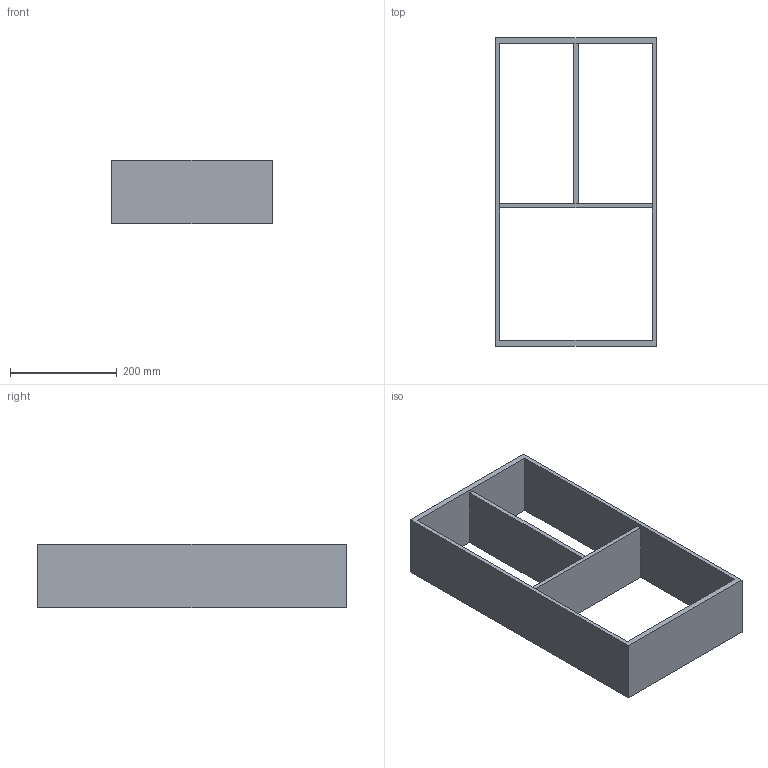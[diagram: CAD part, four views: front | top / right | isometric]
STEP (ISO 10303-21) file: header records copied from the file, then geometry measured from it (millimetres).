
FILE_DESCRIPTION (( 'STEP AP214' ), '1' );
FILE_NAME ('Vario Multi H120 NL600_B400_19 mm_Alu-Alu.step', '2010-10-08T09:48:14', ( 'grass' ), ( '' ), 'SwSTEP 2.0', 'SolidWorks 2010', '' );
FILE_SCHEMA (( 'AUTOMOTIVE_DESIGN' ));
Length unit declared in the file: millimetre
Products named in the file (1): Vario Multi H120 NL600_B400_19 mm_Alu-Alu
Bounding box: 302 x 579 x 120 mm (x, y, z)
Volume: 2400850.8 mm3; surface area: 584130.3 mm2
Topology: 1 solids, 1 shells, 18 faces, 48 edges, 32 vertices
Faces by surface type: plane 18
Entity records: 598 total; most frequent: CARTESIAN_POINT 99, ORIENTED_EDGE 96, DIRECTION 86, LINE 48, VECTOR 48, EDGE_CURVE 48, VERTEX_POINT 32, EDGE_LOOP 24
